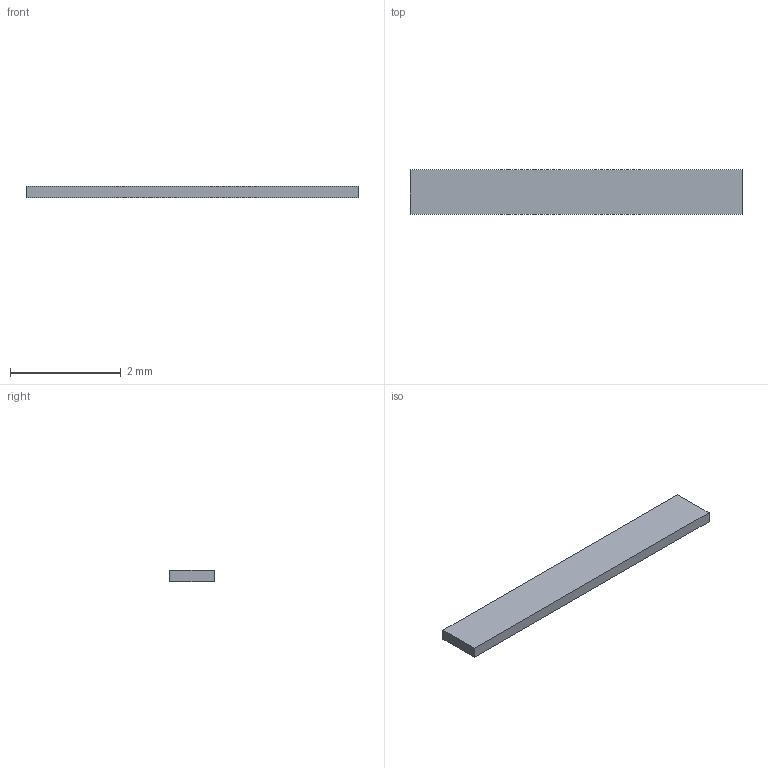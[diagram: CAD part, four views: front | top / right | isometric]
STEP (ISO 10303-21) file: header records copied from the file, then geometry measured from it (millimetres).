
FILE_DESCRIPTION(('Open CASCADE Model'),'2;1');
FILE_NAME('Open CASCADE Shape Model','2026-09-15T14:19:27',('Author'),( 'Open CASCADE'),'Open CASCADE STEP processor 7.7','Open CASCADE 7.7' ,'Unknown');
FILE_SCHEMA(('AUTOMOTIVE_DESIGN { 1 0 10303 214 1 1 1 1 }'));
Length unit declared in the file: millimetre
Products named in the file (1): J9_STOCK_COMMON_JUNCTION_SILICONE_0p20
Bounding box: 6 x 0.8 x 0.2 mm (x, y, z)
Volume: 1 mm3; surface area: 12.3 mm2
Topology: 1 solids, 1 shells, 6 faces, 12 edges, 8 vertices
Faces by surface type: plane 6
Entity records: 322 total; most frequent: CARTESIAN_POINT 51, DIRECTION 50, LINE 36, VECTOR 36, ORIENTED_EDGE 24, PCURVE 24, DEFINITIONAL_REPRESENTATION 24, EDGE_CURVE 12
